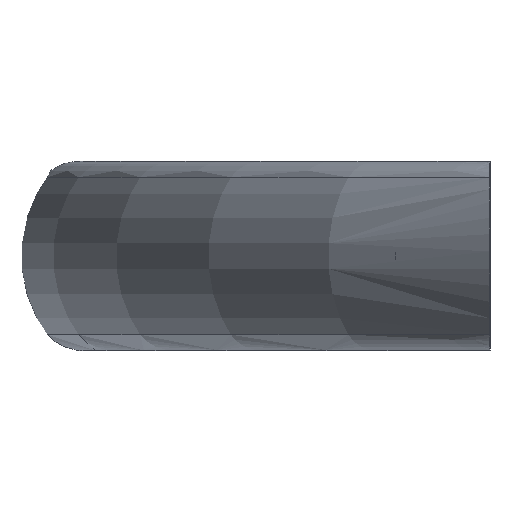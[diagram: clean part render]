
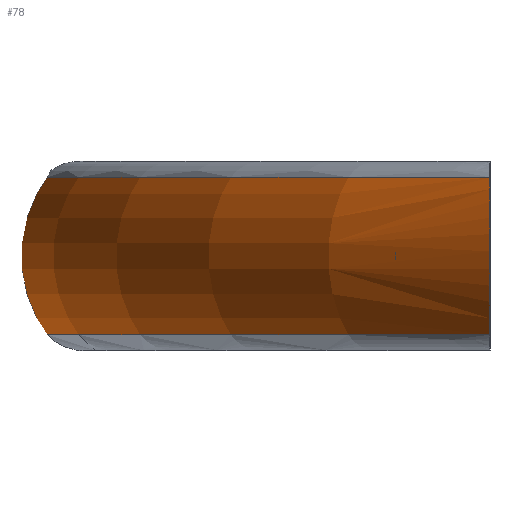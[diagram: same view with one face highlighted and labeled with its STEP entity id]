
A CAD part, left-side view. The second image highlights one B-rep face of the part: STEP entity #78.
In plain terms, the highlighted toroidal (fillet/blend) face has major radius 131.334 mm and minor radius 13.914 mm.
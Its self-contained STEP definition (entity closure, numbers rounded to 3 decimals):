
#78 = ADVANCED_FACE( '', ( #97 ), #98, .T. );
#97 = FACE_OUTER_BOUND( '', #129, .T. );
#98 = TOROIDAL_SURFACE( '', #130, 131.334, 13.914 );
#129 = EDGE_LOOP( '', ( #167, #168, #169, #170 ) );
#130 = AXIS2_PLACEMENT_3D( '', #171, #172, #173 );
#167 = ORIENTED_EDGE( '', *, *, #231, .F. );
#168 = ORIENTED_EDGE( '', *, *, #232, .T. );
#169 = ORIENTED_EDGE( '', *, *, #233, .T. );
#170 = ORIENTED_EDGE( '', *, *, #234, .T. );
#171 = CARTESIAN_POINT( '', ( 0., -95.249, 0. ) );
#172 = DIRECTION( '', ( 0., 0., -1. ) );
#173 = DIRECTION( '', ( -1., 0., 0. ) );
#231 = EDGE_CURVE( '', #254, #255, #256, .T. );
#232 = EDGE_CURVE( '', #254, #257, #258, .T. );
#233 = EDGE_CURVE( '', #257, #259, #260, .T. );
#234 = EDGE_CURVE( '', #259, #255, #261, .T. );
#254 = VERTEX_POINT( '', #286 );
#255 = VERTEX_POINT( '', #287 );
#256 = CIRCLE( '', #288, 142.487 );
#257 = VERTEX_POINT( '', #289 );
#258 = B_SPLINE_CURVE_WITH_KNOTS( '', 3, ( #290, #291, #292, #293, #294, #295, #296, #297, #298, #299, #300, #301, #302, #303, #304, #305, #306, #307, #308, #309, #310, #311, #312, #313, #314, #315 ), .UNSPECIFIED., .F., .F., ( 4, 2, 2, 2, 2, 2, 2, 2, 2, 2, 2, 2, 4 ), ( 0.102, 0.104, 0.105, 0.107, 0.108, 0.109, 0.112, 0.113, 0.114, 0.115, 0.116, 0.119, 0.121 ), .UNSPECIFIED. );
#259 = VERTEX_POINT( '', #316 );
#260 = CIRCLE( '', #317, 142.487 );
#261 = B_SPLINE_CURVE_WITH_KNOTS( '', 3, ( #318, #319, #320, #321, #322, #323, #324, #325, #326, #327, #328, #329, #330, #331, #332, #333, #334, #335, #336, #337, #338, #339, #340, #341, #342, #343, #344, #345 ), .UNSPECIFIED., .F., .F., ( 4, 2, 2, 2, 2, 2, 2, 2, 2, 2, 2, 2, 2, 4 ), ( 0.046, 0.048, 0.049, 0.05, 0.051, 0.053, 0.055, 0.056, 0.057, 0.06, 0.061, 0.062, 0.063, 0.064 ), .UNSPECIFIED. );
#286 = CARTESIAN_POINT( '', ( -105.972, 0., -8.321 ) );
#287 = CARTESIAN_POINT( '', ( 105.972, 0., -8.321 ) );
#288 = AXIS2_PLACEMENT_3D( '', #504, #505, #506 );
#289 = CARTESIAN_POINT( '', ( -105.972, 0., 8.321 ) );
#290 = CARTESIAN_POINT( '', ( -105.972, 0., -8.321 ) );
#291 = CARTESIAN_POINT( '', ( -106.248, 0., -8.046 ) );
#292 = CARTESIAN_POINT( '', ( -106.515, 0., -7.758 ) );
#293 = CARTESIAN_POINT( '', ( -107.02, 0., -7.165 ) );
#294 = CARTESIAN_POINT( '', ( -107.258, 0., -6.86 ) );
#295 = CARTESIAN_POINT( '', ( -107.932, 0., -5.914 ) );
#296 = CARTESIAN_POINT( '', ( -108.324, 0., -5.246 ) );
#297 = CARTESIAN_POINT( '', ( -108.813, 0., -4.178 ) );
#298 = CARTESIAN_POINT( '', ( -108.959, 0., -3.813 ) );
#299 = CARTESIAN_POINT( '', ( -109.21, 0., -3.072 ) );
#300 = CARTESIAN_POINT( '', ( -109.316, 0., -2.693 ) );
#301 = CARTESIAN_POINT( '', ( -109.572, 0., -1.551 ) );
#302 = CARTESIAN_POINT( '', ( -109.658, 0., -0.782 ) );
#303 = CARTESIAN_POINT( '', ( -109.658, 0., 0.385 ) );
#304 = CARTESIAN_POINT( '', ( -109.636, 0., 0.778 ) );
#305 = CARTESIAN_POINT( '', ( -109.55, 0., 1.555 ) );
#306 = CARTESIAN_POINT( '', ( -109.485, 0., 1.938 ) );
#307 = CARTESIAN_POINT( '', ( -109.316, 0., 2.694 ) );
#308 = CARTESIAN_POINT( '', ( -109.211, 0., 3.068 ) );
#309 = CARTESIAN_POINT( '', ( -108.962, 0., 3.804 ) );
#310 = CARTESIAN_POINT( '', ( -108.817, 0., 4.169 ) );
#311 = CARTESIAN_POINT( '', ( -108.329, 0., 5.237 ) );
#312 = CARTESIAN_POINT( '', ( -107.936, 0., 5.907 ) );
#313 = CARTESIAN_POINT( '', ( -107.035, 0., 7.174 ) );
#314 = CARTESIAN_POINT( '', ( -106.521, 0., 7.774 ) );
#315 = CARTESIAN_POINT( '', ( -105.972, 0., 8.321 ) );
#316 = CARTESIAN_POINT( '', ( 105.972, 0., 8.321 ) );
#317 = AXIS2_PLACEMENT_3D( '', #507, #508, #509 );
#318 = CARTESIAN_POINT( '', ( 105.972, 0., 8.321 ) );
#319 = CARTESIAN_POINT( '', ( 106.521, 0., 7.774 ) );
#320 = CARTESIAN_POINT( '', ( 107.025, 0., 7.186 ) );
#321 = CARTESIAN_POINT( '', ( 107.705, 0., 6.233 ) );
#322 = CARTESIAN_POINT( '', ( 107.919, 0., 5.902 ) );
#323 = CARTESIAN_POINT( '', ( 108.311, 0., 5.228 ) );
#324 = CARTESIAN_POINT( '', ( 108.49, 0., 4.884 ) );
#325 = CARTESIAN_POINT( '', ( 108.813, 0., 4.179 ) );
#326 = CARTESIAN_POINT( '', ( 108.956, 0., 3.819 ) );
#327 = CARTESIAN_POINT( '', ( 109.207, 0., 3.082 ) );
#328 = CARTESIAN_POINT( '', ( 109.314, 0., 2.704 ) );
#329 = CARTESIAN_POINT( '', ( 109.571, 0., 1.558 ) );
#330 = CARTESIAN_POINT( '', ( 109.657, 0., 0.788 ) );
#331 = CARTESIAN_POINT( '', ( 109.658, 0., -0.374 ) );
#332 = CARTESIAN_POINT( '', ( 109.638, 0., -0.762 ) );
#333 = CARTESIAN_POINT( '', ( 109.552, 0., -1.543 ) );
#334 = CARTESIAN_POINT( '', ( 109.487, 0., -1.929 ) );
#335 = CARTESIAN_POINT( '', ( 109.233, 0., -3.068 ) );
#336 = CARTESIAN_POINT( '', ( 108.983, 0., -3.803 ) );
#337 = CARTESIAN_POINT( '', ( 108.495, 0., -4.873 ) );
#338 = CARTESIAN_POINT( '', ( 108.314, 0., -5.222 ) );
#339 = CARTESIAN_POINT( '', ( 107.923, 0., -5.895 ) );
#340 = CARTESIAN_POINT( '', ( 107.712, 0., -6.222 ) );
#341 = CARTESIAN_POINT( '', ( 107.262, 0., -6.855 ) );
#342 = CARTESIAN_POINT( '', ( 107.022, 0., -7.162 ) );
#343 = CARTESIAN_POINT( '', ( 106.515, 0., -7.758 ) );
#344 = CARTESIAN_POINT( '', ( 106.248, 0., -8.046 ) );
#345 = CARTESIAN_POINT( '', ( 105.972, 0., -8.321 ) );
#504 = CARTESIAN_POINT( '', ( 0., -95.249, -8.321 ) );
#505 = DIRECTION( '', ( 0., 0., -1. ) );
#506 = DIRECTION( '', ( -1., 0., 0. ) );
#507 = CARTESIAN_POINT( '', ( 0., -95.249, 8.321 ) );
#508 = DIRECTION( '', ( 0., 0., -1. ) );
#509 = DIRECTION( '', ( -1., 0., 0. ) );
